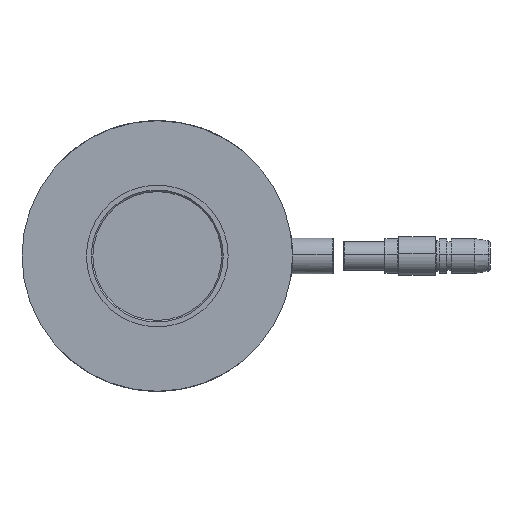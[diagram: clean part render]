
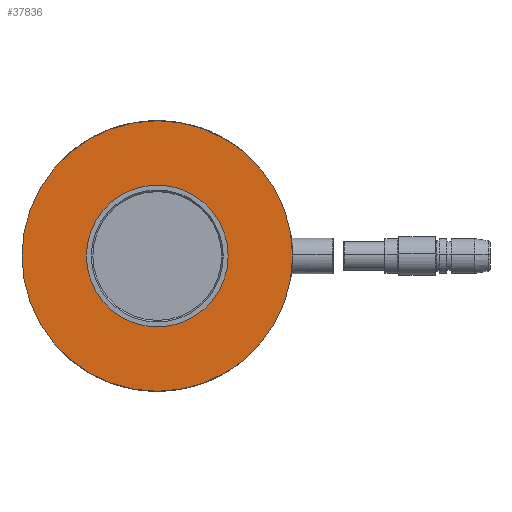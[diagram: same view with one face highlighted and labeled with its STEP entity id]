
A CAD part, front view. The second image highlights one B-rep face of the part: STEP entity #37836.
In plain terms, the highlighted planar face has unit normal (0, -1, 0).
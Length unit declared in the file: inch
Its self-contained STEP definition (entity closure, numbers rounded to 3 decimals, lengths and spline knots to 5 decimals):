
#276 = PLANE ( 'NONE',  #40444 ) ;
#435 = DIRECTION ( 'NONE',  ( 0., 0., 1. ) ) ;
#702 = AXIS2_PLACEMENT_3D ( 'NONE', #22251, #38588, #28767 ) ;
#852 = DIRECTION ( 'NONE',  ( 0., 1., 0. ) ) ;
#1792 = CARTESIAN_POINT ( 'NONE',  ( -0.71518, -0.5677, 1.3125 ) ) ;
#3163 = CIRCLE ( 'NONE', #39420, 0.6875 ) ;
#3592 = CARTESIAN_POINT ( 'NONE',  ( -0.71518, -0.5677, 0. ) ) ;
#4754 = CIRCLE ( 'NONE', #702, 1.3125 ) ;
#5006 = VERTEX_POINT ( 'NONE', #1792 ) ;
#5319 = EDGE_CURVE ( 'NONE', #22894, #5006, #22171, .T. ) ;
#10523 = CARTESIAN_POINT ( 'NONE',  ( 0.01782, -0.5677, 0. ) ) ;
#11247 = VERTEX_POINT ( 'NONE', #33099 ) ;
#11860 = CARTESIAN_POINT ( 'NONE',  ( -0.71518, -0.5677, 0.6875 ) ) ;
#13002 = DIRECTION ( 'NONE',  ( 0., 1., 0. ) ) ;
#13598 = EDGE_CURVE ( 'NONE', #5006, #22894, #4754, .T. ) ;
#13845 = AXIS2_PLACEMENT_3D ( 'NONE', #3592, #13002, #35498 ) ;
#15782 = AXIS2_PLACEMENT_3D ( 'NONE', #16310, #35421, #435 ) ;
#16310 = CARTESIAN_POINT ( 'NONE',  ( -0.71518, -0.5677, 0. ) ) ;
#17149 = ORIENTED_EDGE ( 'NONE', *, *, #19839, .F. ) ;
#18124 = EDGE_LOOP ( 'NONE', ( #30112, #34817 ) ) ;
#18156 = CARTESIAN_POINT ( 'NONE',  ( -0.71518, -0.5677, 0. ) ) ;
#19839 = EDGE_CURVE ( 'NONE', #33064, #11247, #3163, .T. ) ;
#21207 = DIRECTION ( 'NONE',  ( 0., -1., 0. ) ) ;
#22171 = CIRCLE ( 'NONE', #13845, 1.3125 ) ;
#22251 = CARTESIAN_POINT ( 'NONE',  ( -0.71518, -0.5677, 0. ) ) ;
#22894 = VERTEX_POINT ( 'NONE', #30799 ) ;
#26762 = CIRCLE ( 'NONE', #15782, 0.6875 ) ;
#28348 = FACE_OUTER_BOUND ( 'NONE', #18124, .T. ) ;
#28767 = DIRECTION ( 'NONE',  ( 0., 0., 1. ) ) ;
#29334 = FACE_BOUND ( 'NONE', #31917, .T. ) ;
#30112 = ORIENTED_EDGE ( 'NONE', *, *, #13598, .F. ) ;
#30799 = CARTESIAN_POINT ( 'NONE',  ( -0.71518, -0.5677, -1.3125 ) ) ;
#31917 = EDGE_LOOP ( 'NONE', ( #17149, #40828 ) ) ;
#33064 = VERTEX_POINT ( 'NONE', #11860 ) ;
#33099 = CARTESIAN_POINT ( 'NONE',  ( -0.71518, -0.5677, -0.6875 ) ) ;
#34817 = ORIENTED_EDGE ( 'NONE', *, *, #5319, .F. ) ;
#35421 = DIRECTION ( 'NONE',  ( 0., -1., 0. ) ) ;
#35498 = DIRECTION ( 'NONE',  ( 0., 0., 1. ) ) ;
#35828 = DIRECTION ( 'NONE',  ( 0., 0., 1. ) ) ;
#37226 = DIRECTION ( 'NONE',  ( 0., 0., 1. ) ) ;
#37836 = ADVANCED_FACE ( 'NONE', ( #29334, #28348 ), #276, .F. ) ;
#38588 = DIRECTION ( 'NONE',  ( 0., 1., 0. ) ) ;
#39296 = EDGE_CURVE ( 'NONE', #11247, #33064, #26762, .T. ) ;
#39420 = AXIS2_PLACEMENT_3D ( 'NONE', #18156, #21207, #37226 ) ;
#40444 = AXIS2_PLACEMENT_3D ( 'NONE', #10523, #852, #35828 ) ;
#40828 = ORIENTED_EDGE ( 'NONE', *, *, #39296, .F. ) ;
